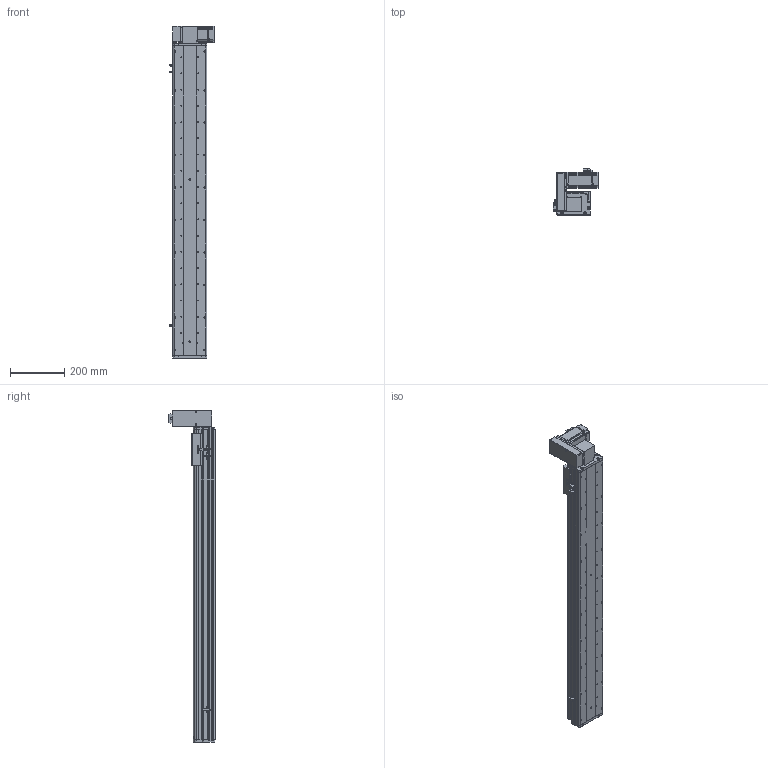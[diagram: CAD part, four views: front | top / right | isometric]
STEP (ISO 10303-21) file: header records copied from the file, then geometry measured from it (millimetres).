
FILE_DESCRIPTION (( 'STEP AP214' ), '1' );
FILE_NAME ('KSD125B-S950-MRU-CM.STEP', '2017-10-21T07:38:19', ( '微软用户' ), ( '微软中国' ), 'SwSTEP 2.0', 'SolidWorks 2014', '' );
FILE_SCHEMA (( 'AUTOMOTIVE_DESIGN' ));
Length unit declared in the file: millimetre
Products named in the file (17): KSD125B-S950-MRU-CM; 悵誘欶奻狟殏; HTPA30S3M150_A_H6_a佪裝蚚; HTPA30S3M150_A_H6_a萇儂蚚; 100宽马达安装板连板上下折丝杆同步带; KSD125模组950行程同步带-防尘盖; 125模组950行程同步带-底板; MHMD042G1CA_2_03; KSD125模组同步带-防撞垫2; 覜茼え68遵圉猾敕; U倰嫖萇假蚾璃; U倰嫖萇EEㄜSX672; KSD125模组同步带-防撞垫1; 100宽马达安装板同步带右; 前端板-125宽模组同步带; 125模组同步带-尾端板1; KSD125模组同步带-滑动座1
Assembly tree (20 placements, depth 2):
  KSD125B-S950-MRU-CM
    KSD125模组同步带-滑动座1
    125模组同步带-尾端板1
    前端板-125宽模组同步带
    100宽马达安装板同步带右
    KSD125模组同步带-防撞垫1
    U倰嫖萇EEㄜSX672  x3
    U倰嫖萇假蚾璃  x3
    覜茼え68遵圉猾敕
    KSD125模组同步带-防撞垫2
    MHMD042G1CA_2_03
    125模组950行程同步带-底板
    KSD125模组950行程同步带-防尘盖
    100宽马达安装板连板上下折丝杆同步带
    HTPA30S3M150_A_H6_a萇儂蚚
    HTPA30S3M150_A_H6_a佪裝蚚
    悵誘欶奻狟殏
Bounding box: 168.7 x 170.5 x 1227.75 mm (x, y, z)
Volume: 3791965.8 mm3; surface area: 1278747.7 mm2
Topology: 19 solids, 22 shells, 2307 faces, 6685 edges, 4418 vertices
Faces by surface type: cylinder 1452, plane 728, cone 105, bspline 22
Entity records: 82151 total; most frequent: CARTESIAN_POINT 16215, DIRECTION 12770, ORIENTED_EDGE 11890, EDGE_CURVE 6023, AXIS2_PLACEMENT_3D 4941, VERTEX_POINT 4010, VECTOR 2888, LINE 2888
